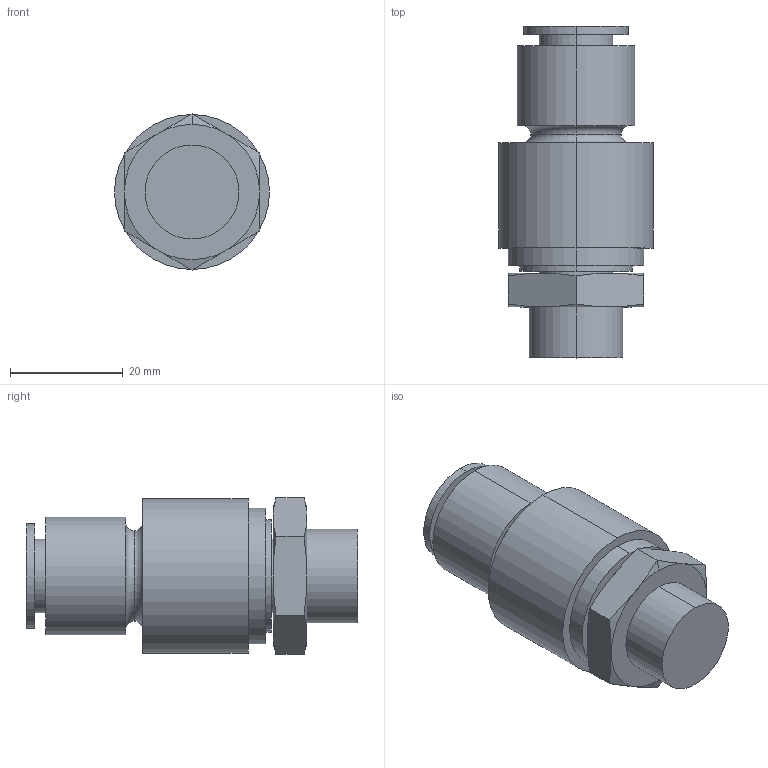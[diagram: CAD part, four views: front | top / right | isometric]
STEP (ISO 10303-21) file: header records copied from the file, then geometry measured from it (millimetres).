
FILE_DESCRIPTION (( 'STEP AP203' ), '1' );
FILE_NAME ('FKXH12-03.STEP', '2022-04-18T15:21:52', ( '' ), ( '' ), 'SwSTEP 2.0', 'SolidWorks 2019', '' );
FILE_SCHEMA (( 'CONFIG_CONTROL_DESIGN' ));
Length unit declared in the file: millimetre
Products named in the file (1): FKXH12-03
Bounding box: 27.5 x 58.9 x 27.71 mm (x, y, z)
Volume: 21548.3 mm3; surface area: 7367.1 mm2
Topology: 1 solids, 1 shells, 54 faces, 110 edges, 68 vertices
Faces by surface type: cylinder 18, plane 18, cone 14, torus 4
Entity records: 1855 total; most frequent: CARTESIAN_POINT 633, DIRECTION 256, ORIENTED_EDGE 220, AXIS2_PLACEMENT_3D 115, EDGE_CURVE 110, VERTEX_POINT 68, EDGE_LOOP 64, CIRCLE 60
